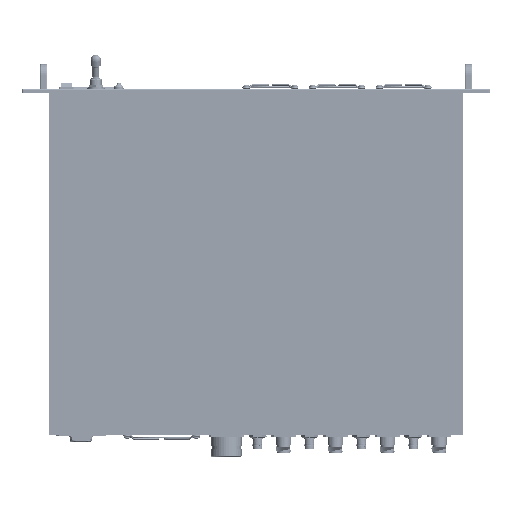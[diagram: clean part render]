
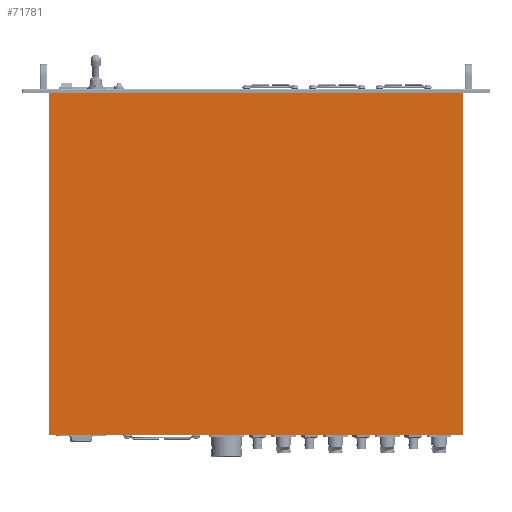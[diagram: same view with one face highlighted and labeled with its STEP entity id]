
A CAD part, front view. The second image highlights one B-rep face of the part: STEP entity #71781.
In plain terms, the highlighted planar face has unit normal (0, -1, 0).
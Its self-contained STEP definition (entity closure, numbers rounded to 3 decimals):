
#12560 = EDGE_LOOP ( 'NONE', ( #453898, #302868, #460443, #397221 ) ) ;
#36454 = VERTEX_POINT ( 'NONE', #320542 ) ;
#42309 = DIRECTION ( 'NONE',  ( 1., 0., 0. ) ) ;
#71781 = ADVANCED_FACE ( 'NONE', ( #174125 ), #464162, .T. ) ;
#71871 = EDGE_CURVE ( 'NONE', #327212, #235561, #462391, .T. ) ;
#78035 = CARTESIAN_POINT ( 'NONE',  ( -10.311, -1.095, 6.765 ) ) ;
#86701 = VECTOR ( 'NONE', #264772, 39.37 ) ;
#121169 = EDGE_CURVE ( 'NONE', #272877, #36454, #424089, .T. ) ;
#159504 = DIRECTION ( 'NONE',  ( 0., 0., -1. ) ) ;
#161266 = DIRECTION ( 'NONE',  ( -1., 0., 0. ) ) ;
#162544 = EDGE_CURVE ( 'NONE', #235561, #272877, #396001, .T. ) ;
#165016 = DIRECTION ( 'NONE',  ( 0., -1., 0. ) ) ;
#174125 = FACE_OUTER_BOUND ( 'NONE', #12560, .T. ) ;
#183827 = VECTOR ( 'NONE', #42309, 39.37 ) ;
#184612 = CARTESIAN_POINT ( 'NONE',  ( 6.419, -1.095, -7.064 ) ) ;
#190120 = EDGE_CURVE ( 'NONE', #36454, #327212, #232654, .T. ) ;
#232654 = LINE ( 'NONE', #309261, #183827 ) ;
#235561 = VERTEX_POINT ( 'NONE', #423730 ) ;
#240506 = VECTOR ( 'NONE', #159504, 39.37 ) ;
#250758 = DIRECTION ( 'NONE',  ( 0., 0., -1. ) ) ;
#264772 = DIRECTION ( 'NONE',  ( 0., 0., 1. ) ) ;
#272877 = VERTEX_POINT ( 'NONE', #450054 ) ;
#302868 = ORIENTED_EDGE ( 'NONE', *, *, #121169, .T. ) ;
#309261 = CARTESIAN_POINT ( 'NONE',  ( -10.311, -1.095, -7.064 ) ) ;
#315071 = VECTOR ( 'NONE', #161266, 39.37 ) ;
#320542 = CARTESIAN_POINT ( 'NONE',  ( -10.311, -1.095, -7.064 ) ) ;
#327212 = VERTEX_POINT ( 'NONE', #184612 ) ;
#338962 = CARTESIAN_POINT ( 'NONE',  ( 6.419, -1.095, -7.064 ) ) ;
#362050 = CARTESIAN_POINT ( 'NONE',  ( -8.829, -1.095, -13.103 ) ) ;
#396001 = LINE ( 'NONE', #425839, #315071 ) ;
#397221 = ORIENTED_EDGE ( 'NONE', *, *, #71871, .T. ) ;
#410331 = AXIS2_PLACEMENT_3D ( 'NONE', #362050, #165016, #250758 ) ;
#423730 = CARTESIAN_POINT ( 'NONE',  ( 6.419, -1.095, 6.765 ) ) ;
#424089 = LINE ( 'NONE', #78035, #240506 ) ;
#425839 = CARTESIAN_POINT ( 'NONE',  ( -10.311, -1.095, 6.765 ) ) ;
#450054 = CARTESIAN_POINT ( 'NONE',  ( -10.311, -1.095, 6.765 ) ) ;
#453898 = ORIENTED_EDGE ( 'NONE', *, *, #162544, .T. ) ;
#460443 = ORIENTED_EDGE ( 'NONE', *, *, #190120, .T. ) ;
#462391 = LINE ( 'NONE', #338962, #86701 ) ;
#464162 = PLANE ( 'NONE',  #410331 ) ;
